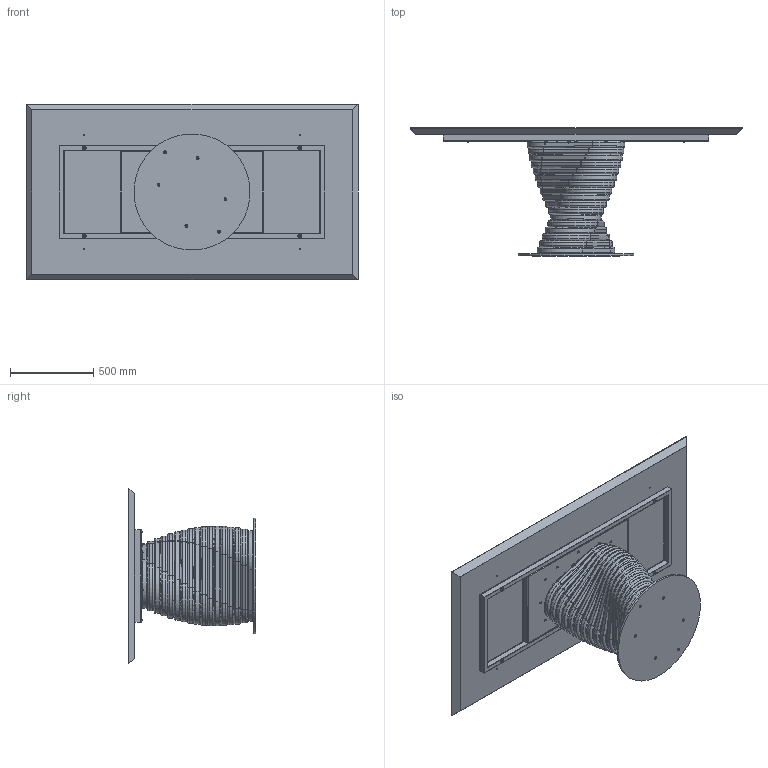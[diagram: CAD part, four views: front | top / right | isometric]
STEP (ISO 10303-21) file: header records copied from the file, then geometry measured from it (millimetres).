
FILE_DESCRIPTION (( 'STEP AP203' ), '1' );
FILE_NAME ('RO21W.STEP', '2024-08-07T13:39:07', ( '' ), ( '' ), 'SwSTEP 2.0', 'SolidWorks 2022', '' );
FILE_SCHEMA (( 'CONFIG_CONTROL_DESIGN' ));
Length unit declared in the file: millimetre
Products named in the file (15): ROBX00000INF-00-Anello rotolo INFERIORE_Default<A macchina>; ROB200000-00-PIASTRA BASE_Ø70cm; RO21W; W2XCMXX-00-Piani Rettangolari in legno_2000 x 1060; TTAV01_02-05-VASSOIO IRRIGIDIMENTO TELAIO UNIVERSALE; COLLO TELAIO UNIVERSALE TTAV01 CON FERRAMENTA_MTG TOP LEGNO-MARMO-KING; rondella M8_8X24; M8xXXmm_M8x20mm; ROBX00000MED-00-Anello rotolo MEDIO_Default<A macchina>; TTAV01-05-TELAIO UNIVERSALE X TAVOLI 180 240cm; ROBX00000SUP-00-Anello rotolo SUPERIORE_Default<A macchina>; M8xXXmm_hex_M8X20mm; M8xXXmm_M8x55mm; TTAV01_01-05-TELAIO UNIVERSALE X TAVOLI 180 240cm; ROBX00000-00-ROTOLO BASE 17 ANELLI
Assembly tree (46 placements, depth 4):
  RO21W
    ROB200000-00-PIASTRA BASE_Ø70cm
    ROBX00000-00-ROTOLO BASE 17 ANELLI
      ROBX00000INF-00-Anello rotolo INFERIORE_Default<A macchina>
      ROBX00000MED-00-Anello rotolo MEDIO_Default<A macchina>  x15
      ROBX00000SUP-00-Anello rotolo SUPERIORE_Default<A macchina>
    M8xXXmm_hex_M8X20mm  x6
    COLLO TELAIO UNIVERSALE TTAV01 CON FERRAMENTA_MTG TOP LEGNO-MARMO-KING
      TTAV01-05-TELAIO UNIVERSALE X TAVOLI 180 240cm
        TTAV01_02-05-VASSOIO IRRIGIDIMENTO TELAIO UNIVERSALE
        TTAV01_01-05-TELAIO UNIVERSALE X TAVOLI 180 240cm
      rondella M8_8X24  x4
      M8xXXmm_M8x55mm  x4
    rondella M8_8X24  x4
    M8xXXmm_M8x20mm  x4
    W2XCMXX-00-Piani Rettangolari in legno_2000 x 1060
Bounding box: 2000 x 770 x 1060 mm (x, y, z)
Volume: 90019781.8 mm3; surface area: 12199949.2 mm2
Topology: 94 solids, 94 shells, 1680 faces, 3998 edges, 2461 vertices
Faces by surface type: plane 662, cylinder 592, torus 244, cone 174, sphere 8
Entity records: 23179 total; most frequent: CARTESIAN_POINT 5198, DIRECTION 3374, ORIENTED_EDGE 3116, EDGE_CURVE 1558, AXIS2_PLACEMENT_3D 1268, VERTEX_POINT 982, LINE 838, VECTOR 838
